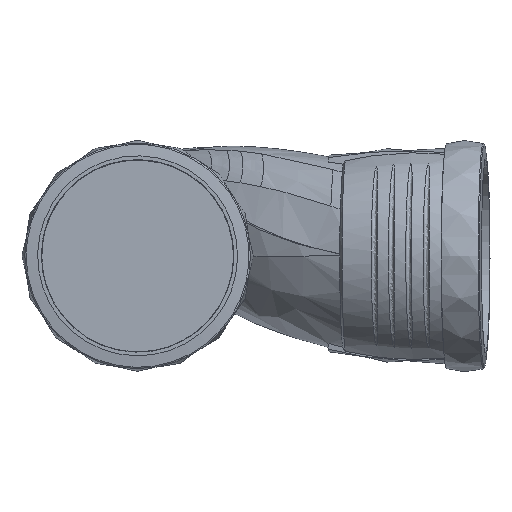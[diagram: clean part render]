
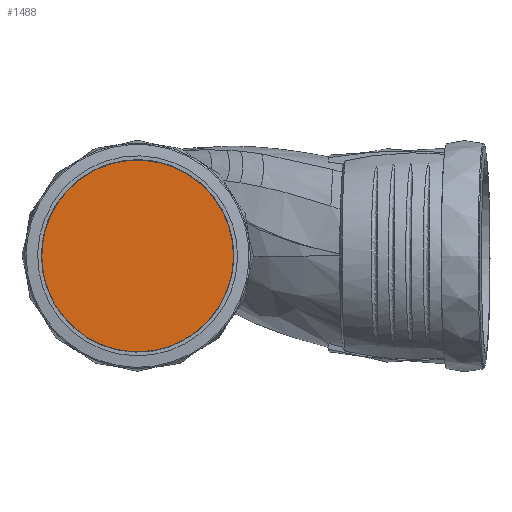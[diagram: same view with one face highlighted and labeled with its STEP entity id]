
A CAD part, top view. The second image highlights one B-rep face of the part: STEP entity #1488.
In plain terms, the highlighted planar face has unit normal (0, 0, 1).
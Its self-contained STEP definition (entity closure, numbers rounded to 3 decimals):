
#47=PLANE('',#1615);
#175=CIRCLE('',#1616,45.45);
#176=CIRCLE('',#1617,45.45);
#266=FACE_OUTER_BOUND('',#365,.T.);
#365=EDGE_LOOP('',(#1142,#1143));
#643=VERTEX_POINT('',#8935);
#644=VERTEX_POINT('',#8936);
#833=EDGE_CURVE('',#643,#644,#175,.T.);
#834=EDGE_CURVE('',#644,#643,#176,.T.);
#1142=ORIENTED_EDGE('',*,*,#833,.T.);
#1143=ORIENTED_EDGE('',*,*,#834,.T.);
#1488=ADVANCED_FACE('',(#266),#47,.T.);
#1615=AXIS2_PLACEMENT_3D('',#8934,#1803,#1804);
#1616=AXIS2_PLACEMENT_3D('',#8937,#1805,#1806);
#1617=AXIS2_PLACEMENT_3D('',#8938,#1807,#1808);
#1803=DIRECTION('center_axis',(0.,0.,
1.));
#1804=DIRECTION('ref_axis',(1.,0.,0.));
#1805=DIRECTION('center_axis',(0.,0.,1.));
#1806=DIRECTION('ref_axis',(-1.,0.,0.));
#1807=DIRECTION('center_axis',(0.,0.,1.));
#1808=DIRECTION('ref_axis',(-1.,0.,0.));
#8934=CARTESIAN_POINT('Origin',(0.,0.,
32.));
#8935=CARTESIAN_POINT('',(9.197,-44.51,32.));
#8936=CARTESIAN_POINT('',(21.79,-39.886,32.));
#8937=CARTESIAN_POINT('Origin',(0.,0.,32.));
#8938=CARTESIAN_POINT('Origin',(0.,0.,32.));
